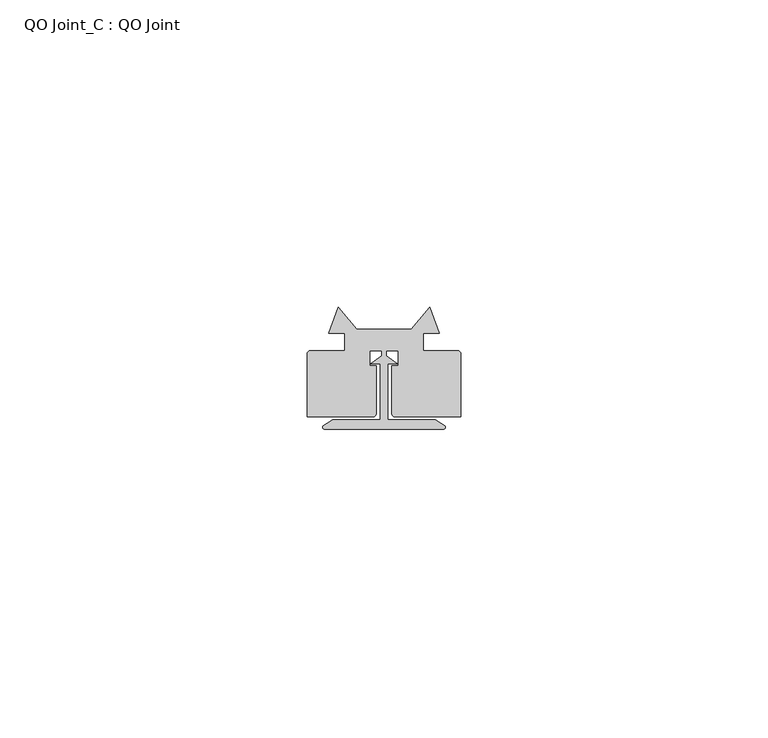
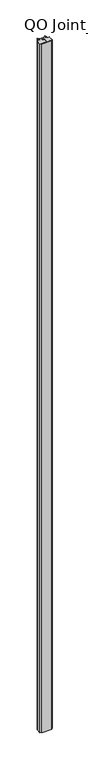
"""IFC4 building model written with IfcOpenShell, lengths in millimetres: column geometry, QO Joint_C : QO Joint."""

from ifc_helpers import new_model, si_unit, point, frame, frame_2d, origin, place, context, project, spatial, polyline, circle_curve, trimmed, segment, composite_curve, outline, extrude, source, transform, mapped, element, save


def qo_joint_c_qo_joint_4fdc384a(model_context):
    return source(origin(), model_context, "Body", "SweptSolid", [
        extrude(outline(composite_curve([segment(polyline([(-0.65, 34.6160805), (-2.1650257, 34.6160805), (-0.3521968, 35.9759407), (-0.3521968, 36.7759407), (-2.3537221, 36.7759407), (-2.3537221, 34.317153), (-1.2854895, 34.317153), (-1.2854895, 26.5392087)]), True, "CONTINUOUS"), segment(trimmed(circle_curve(frame_2d((-1.7848662, 26.5150144)), 0.4999625), [point((-1.2854895, 26.5392087))], [point((-1.7848662, 26.0150519))], False, "CARTESIAN"), True, "CONTINUOUS"), segment(polyline([(-1.7848662, 26.0150519), (-12.4986723, 26.0150519), (-12.4986723, 36.190378)]), True, "CONTINUOUS"), segment(trimmed(circle_curve(frame_2d((-11.8986723, 36.190378)), 0.6), [point((-12.4986723, 36.190378))], [point((-11.8986723, 36.790378))], False, "CARTESIAN"), True, "CONTINUOUS"), segment(polyline([(-11.8986723, 36.790378), (-6.3601486, 36.790378), (-6.3601486, 39.6058207), (-8.9587496, 39.6058207), (-7.4200002, 43.8493822), (-4.3967779, 40.3004498), (4.3967779, 40.3004498), (7.4200002, 43.8493822), (8.9587496, 39.6058207), (6.3601486, 39.6058207), (6.3601486, 36.790378), (11.8986723, 36.790378)]), True, "CONTINUOUS"), segment(trimmed(circle_curve(frame_2d((11.8986723, 36.190378)), 0.6), [point((11.8986723, 36.790378))], [point((12.4986723, 36.190378))], False, "CARTESIAN"), True, "CONTINUOUS"), segment(polyline([(12.4986723, 36.190378), (12.4986723, 26.0150519), (1.7848662, 26.0150519)]), True, "CONTINUOUS"), segment(trimmed(circle_curve(frame_2d((1.7848662, 26.5150144)), 0.4999625), [point((1.7848662, 26.0150519))], [point((1.2854895, 26.5392087))], False, "CARTESIAN"), True, "CONTINUOUS"), segment(polyline([(1.2854895, 26.5392087), (1.2854895, 34.317153), (2.3537221, 34.317153), (2.3537221, 36.7759407), (0.3521968, 36.7759407), (0.3521968, 35.9759407), (2.1650257, 34.6160805), (0.65, 34.6160805), (0.65, 25.5027713), (8.3181137, 25.5027713), (9.8500891, 24.5783623)]), True, "CONTINUOUS"), segment(trimmed(circle_curve(frame_2d((9.6899304, 24.3129396)), 0.31), [point((9.8500891, 24.5783623))], [point((9.6899304, 24.0029396))], False, "CARTESIAN"), True, "CONTINUOUS"), segment(polyline([(9.6899304, 24.0029396), (-9.6900925, 24.0029396)]), True, "CONTINUOUS"), segment(trimmed(circle_curve(frame_2d((-9.6900925, 24.3129396)), 0.31), [point((-9.6900925, 24.0029396))], [point((-9.8502511, 24.5783623))], False, "CARTESIAN"), True, "CONTINUOUS"), segment(polyline([(-9.8502511, 24.5783623), (-8.3182758, 25.5027713), (-0.65, 25.5027713), (-0.65, 34.6160805)]), True, "CONTINUOUS")], self_intersect=False)), frame((0.0, 0.0, 4675.0), z_axis=(0.0, 0.0, 1.0), x_axis=(1.0, 0.0, 0.0)), (0.0, 0.0, 1.0), 1475.0),
    ])


if __name__ == "__main__":
    model = new_model("IFC4")
    model_context = context("Model", 3, world=origin())
    ifc_project = project(units=[si_unit("LENGTHUNIT", "METRE", prefix="MILLI")], contexts=[model_context])
    site = spatial("IfcSite", under=ifc_project)
    building = spatial("IfcBuilding", under=site)
    placement = place(None, origin())
    qo_joint_c_qo_joint_shape = qo_joint_c_qo_joint_4fdc384a(model_context)
    element("IfcColumn", 1, ObjectType="QO Joint_C : QO Joint", at=placement, inside=building, context=model_context, shape_type="MappedRepresentation", body=[
        mapped(qo_joint_c_qo_joint_shape, transform((0.0, 0.0, 0.0), x_axis=(1.0, 0.0, 0.0), y_axis=(0.0, 1.0, 0.0), z_axis=(0.0, 0.0, 1.0))),
    ])
    save(model, "model.ifc")
